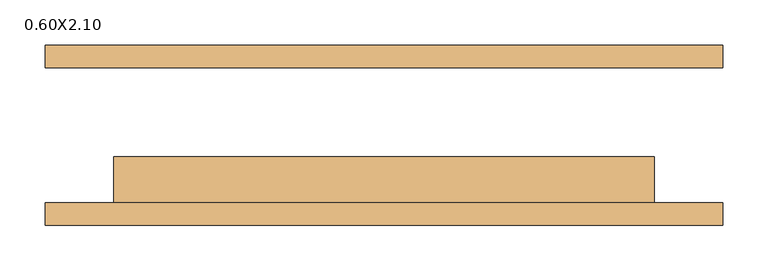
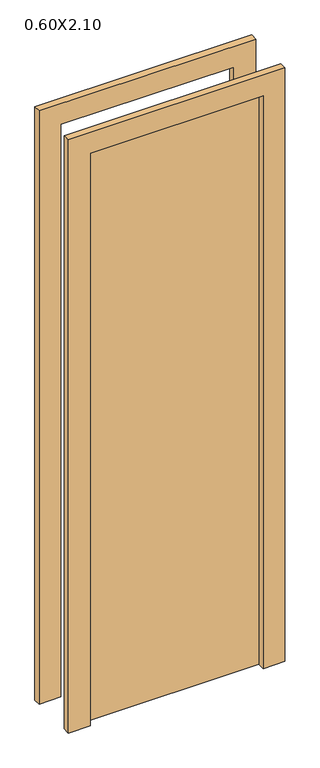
"""IFC4 building model written with IfcOpenShell, lengths in millimetres: door geometry, M_Folha única : 0.60X2.10."""

from ifc_helpers import new_model, si_unit, frame, origin, origin_with_axes, place, context, project, spatial, polyline, outline, extrude, source, transform, mapped, element, save


def door_0_60x2_10_8e608217(model_context):
    return source(origin(), model_context, "Body", "SweptSolid", [
        extrude(outline(polyline([(2176.0, -376.0), (0.0, -376.0), (0.0, -300.0), (2100.0, -300.0), (2100.0, 300.0), (0.0, 300.0), (0.0, 376.0), (2176.0, 376.0), (2176.0, -376.0)])), frame((0.0, -100.0, 0.0), z_axis=(0.0, 1.0, 0.0), x_axis=(0.0, 0.0, 1.0)), (0.0, 0.0, 1.0), 25.0),
        extrude(outline(polyline([(2176.0, 376.0), (2176.0, -376.0), (0.0, -376.0), (0.0, -300.0), (2100.0, -300.0), (2100.0, 300.0), (0.0, 300.0), (0.0, 376.0), (2176.0, 376.0)])), frame((0.0, 75.0, 0.0), z_axis=(0.0, 1.0, 0.0), x_axis=(0.0, 0.0, 1.0)), (0.0, 0.0, 1.0), 25.0),
        extrude(outline(polyline([(300.0, -24.0), (300.0, -75.0), (-300.0, -75.0), (-300.0, -24.0), (300.0, -24.0)])), origin_with_axes(), (0.0, 0.0, 1.0), 2100.0),
    ])


if __name__ == "__main__":
    model = new_model("IFC4")
    model_context = context("Model", 3, world=origin())
    ifc_project = project(units=[si_unit("LENGTHUNIT", "METRE", prefix="MILLI")], contexts=[model_context])
    site = spatial("IfcSite", under=ifc_project)
    building = spatial("IfcBuilding", under=site)
    placement = place(None, origin())
    door_0_60x2_10_shape = door_0_60x2_10_8e608217(model_context)
    element("IfcDoor", 1, ObjectType="M_Folha única : 0.60X2.10", at=placement, inside=building, context=model_context, shape_type="MappedRepresentation", body=[
        mapped(door_0_60x2_10_shape, transform((0.0, 0.0, 0.0), x_axis=(1.0, 0.0, 0.0), y_axis=(0.0, 1.0, 0.0), z_axis=(0.0, 0.0, 1.0))),
    ])
    save(model, "model.ifc")
